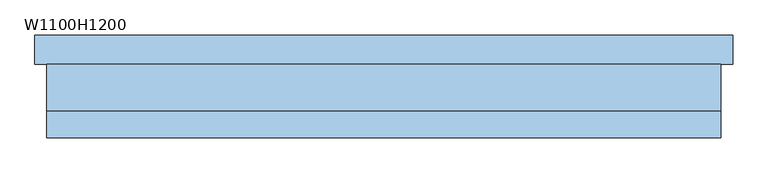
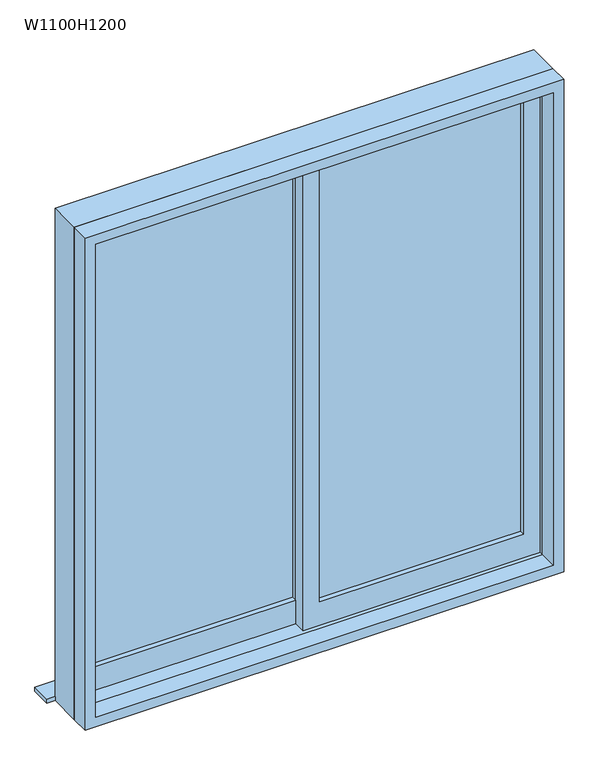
"""IFC4 building model written with IfcOpenShell, lengths in millimetres: window geometry, 引違い腰窓_2枚 : W1100H1200."""

from ifc_helpers import new_model, si_unit, frame, origin, place, context, project, spatial, polyline, outline, extrude, source, transform, mapped, element, save


def w1100h1200_97370016(model_context):
    return source(origin(), model_context, "Body", "SweptSolid", [
        extrude(outline(polyline([(-20.0, 12.5), (-510.0, 12.5), (-510.0, 17.5), (-20.0, 17.5), (-20.0, 12.5)])), frame((0.0, 0.0, 860.0), z_axis=(0.0, 0.0, 1.0), x_axis=(1.0, 0.0, 0.0)), (0.0, 0.0, 1.0), 1100.0),
        extrude(outline(polyline([(510.0, -17.5), (20.0, -17.5), (20.0, -12.5), (510.0, -12.5), (510.0, -17.5)])), frame((0.0, 0.0, 860.0), z_axis=(0.0, 0.0, 1.0), x_axis=(1.0, 0.0, 0.0)), (0.0, 0.0, 1.0), 1100.0),
        extrude(outline(polyline([(2000.0, -20.0), (800.0, -20.0), (800.0, 550.0), (2000.0, 550.0), (2000.0, -20.0)]), holes=[polyline([(860.0, 510.0), (860.0, 20.0), (1960.0, 20.0), (1960.0, 510.0), (860.0, 510.0)])]), frame((0.0, -30.0, 0.0), z_axis=(0.0, 1.0, 0.0), x_axis=(0.0, 0.0, 1.0)), (0.0, 0.0, 1.0), 30.0),
        extrude(outline(polyline([(2000.0, -550.0), (800.0, -550.0), (800.0, 20.0), (2000.0, 20.0), (2000.0, -550.0)]), holes=[polyline([(860.0, -20.0), (860.0, -510.0), (1960.0, -510.0), (1960.0, -20.0), (860.0, -20.0)])]), frame((0.0, 0.0, 0.0), z_axis=(0.0, 1.0, 0.0), x_axis=(0.0, 0.0, 1.0)), (0.0, 0.0, 1.0), 30.0),
        extrude(outline(polyline([(595.0, 90.0), (595.0, 40.0), (-595.0, 40.0), (-595.0, 90.0), (595.0, 90.0)])), frame((0.0, 0.0, 775.0), z_axis=(0.0, 0.0, 1.0), x_axis=(1.0, 0.0, 0.0)), (0.0, 0.0, 1.0), 10.0),
        extrude(outline(polyline([(2025.0, 575.0), (2025.0, -575.0), (775.0, -575.0), (775.0, 575.0), (2025.0, 575.0)]), holes=[polyline([(800.0, -550.0), (2000.0, -550.0), (2000.0, 550.0), (800.0, 550.0), (800.0, -550.0)])]), frame((0.0, -85.0, 0.0), z_axis=(0.0, 1.0, 0.0), x_axis=(0.0, 0.0, 1.0)), (0.0, 0.0, 1.0), 45.0),
        extrude(outline(polyline([(2025.0, -575.0), (775.0, -575.0), (775.0, 575.0), (2025.0, 575.0), (2025.0, -575.0)]), holes=[polyline([(2000.0, 550.0), (800.0, 550.0), (800.0, -550.0), (2000.0, -550.0), (2000.0, 550.0)])]), frame((0.0, -40.0, 0.0), z_axis=(0.0, 1.0, 0.0), x_axis=(0.0, 0.0, 1.0)), (0.0, 0.0, 1.0), 80.0),
    ])


if __name__ == "__main__":
    model = new_model("IFC4")
    model_context = context("Model", 3, world=origin())
    ifc_project = project(units=[si_unit("LENGTHUNIT", "METRE", prefix="MILLI")], contexts=[model_context])
    site = spatial("IfcSite", under=ifc_project)
    building = spatial("IfcBuilding", under=site)
    placement = place(None, origin())
    w1100h1200_shape = w1100h1200_97370016(model_context)
    element("IfcWindow", 1, ObjectType="引違い腰窓_2枚 : W1100H1200", at=placement, inside=building, context=model_context, shape_type="MappedRepresentation", body=[
        mapped(w1100h1200_shape, transform((0.0, 0.0, 0.0), x_axis=(1.0, 0.0, 0.0), y_axis=(0.0, 1.0, 0.0), z_axis=(0.0, 0.0, 1.0))),
    ])
    save(model, "model.ifc")
